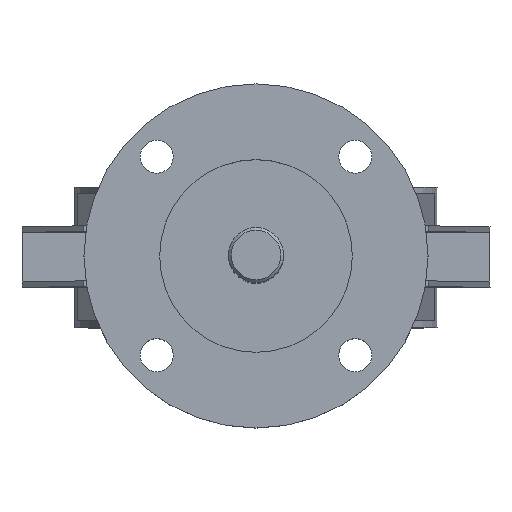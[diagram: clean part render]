
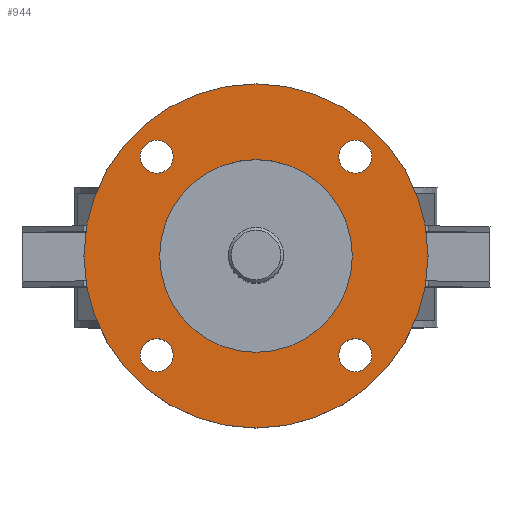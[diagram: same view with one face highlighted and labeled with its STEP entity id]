
A CAD part, top view. The second image highlights one B-rep face of the part: STEP entity #944.
In plain terms, the highlighted planar face has unit normal (0, 0, 1).
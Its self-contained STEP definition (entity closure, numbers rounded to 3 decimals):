
#944=ADVANCED_FACE('',(#2167,#2169,#2171,#2173,#2175,#2177),#2179,.T.);
#2167=FACE_BOUND('',#2168,.T.);
#2168=EDGE_LOOP('',(#3171));
#2169=FACE_BOUND('',#2170,.T.);
#2170=EDGE_LOOP('',(#3172));
#2171=FACE_BOUND('',#2172,.T.);
#2172=EDGE_LOOP('',(#3173));
#2173=FACE_BOUND('',#2174,.T.);
#2174=EDGE_LOOP('',(#3174));
#2175=FACE_BOUND('',#2176,.T.);
#2176=EDGE_LOOP('',(#3175));
#2177=FACE_BOUND('',#2178,.T.);
#2178=EDGE_LOOP('',(#3176));
#2179=PLANE('',#2180);
#2180=AXIS2_PLACEMENT_3D('',#2181,#2182,#2183);
#2181=CARTESIAN_POINT('',(0.,0.,358.));
#2182=DIRECTION('',(0.,0.,1.));
#2183=DIRECTION('',(-1.,0.,0.));
#3171=ORIENTED_EDGE('',*,*,#3573,.T.);
#3172=ORIENTED_EDGE('',*,*,#3574,.T.);
#3173=ORIENTED_EDGE('',*,*,#3575,.T.);
#3174=ORIENTED_EDGE('',*,*,#3576,.T.);
#3175=ORIENTED_EDGE('',*,*,#3695,.T.);
#3176=ORIENTED_EDGE('',*,*,#3577,.T.);
#3573=EDGE_CURVE('',#4122,#4122,#4123,.T.);
#3574=EDGE_CURVE('',#4124,#4124,#4125,.F.);
#3575=EDGE_CURVE('',#4126,#4126,#4127,.F.);
#3576=EDGE_CURVE('',#4128,#4128,#4129,.F.);
#3577=EDGE_CURVE('',#4130,#4130,#4131,.F.);
#3695=EDGE_CURVE('',#4334,#4334,#4335,.F.);
#4122=VERTEX_POINT('',#5284);
#4123=CIRCLE('',#5285,62.5);
#4124=VERTEX_POINT('',#5289);
#4125=CIRCLE('',#5290,6.);
#4126=VERTEX_POINT('',#5294);
#4127=CIRCLE('',#5295,6.);
#4128=VERTEX_POINT('',#5299);
#4129=CIRCLE('',#5300,6.);
#4130=VERTEX_POINT('',#5304);
#4131=CIRCLE('',#5305,6.);
#4334=VERTEX_POINT('',#5802);
#4335=CIRCLE('',#5803,35.);
#5284=CARTESIAN_POINT('',(-62.5,0.,358.));
#5285=AXIS2_PLACEMENT_3D('',#5286,#5287,#5288);
#5286=CARTESIAN_POINT('',(0.,0.,358.));
#5287=DIRECTION('',(0.,0.,1.));
#5288=DIRECTION('',(-1.,0.,0.));
#5289=CARTESIAN_POINT('',(30.062,-36.062,358.));
#5290=AXIS2_PLACEMENT_3D('',#5291,#5292,#5293);
#5291=CARTESIAN_POINT('',(36.062,-36.062,358.));
#5292=DIRECTION('',(0.,0.,1.));
#5293=DIRECTION('',(-1.,0.,0.));
#5294=CARTESIAN_POINT('',(36.062,30.062,358.));
#5295=AXIS2_PLACEMENT_3D('',#5296,#5297,#5298);
#5296=CARTESIAN_POINT('',(36.062,36.062,358.));
#5297=DIRECTION('',(0.,0.,1.));
#5298=DIRECTION('',(0.,-1.,0.));
#5299=CARTESIAN_POINT('',(-30.062,36.062,358.));
#5300=AXIS2_PLACEMENT_3D('',#5301,#5302,#5303);
#5301=CARTESIAN_POINT('',(-36.062,36.062,358.));
#5302=DIRECTION('',(0.,0.,1.));
#5303=DIRECTION('',(1.,0.,-0.));
#5304=CARTESIAN_POINT('',(-36.062,-30.062,358.));
#5305=AXIS2_PLACEMENT_3D('',#5306,#5307,#5308);
#5306=CARTESIAN_POINT('',(-36.062,-36.062,358.));
#5307=DIRECTION('',(0.,0.,1.));
#5308=DIRECTION('',(0.,1.,0.));
#5802=CARTESIAN_POINT('',(0.,35.,358.));
#5803=AXIS2_PLACEMENT_3D('',#5804,#5805,#5806);
#5804=CARTESIAN_POINT('',(0.,0.,358.));
#5805=DIRECTION('',(0.,0.,1.));
#5806=DIRECTION('',(0.,1.,0.));
